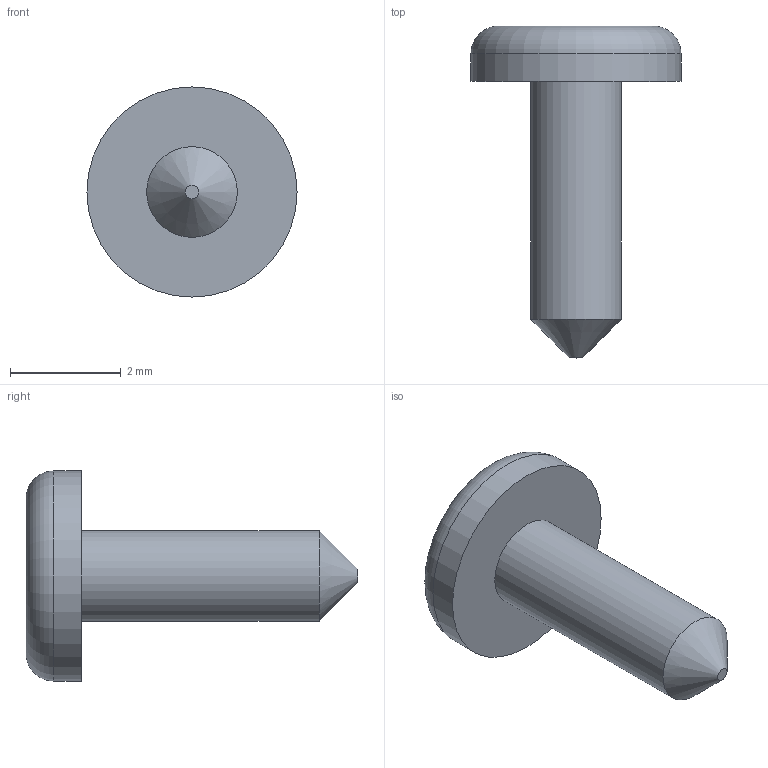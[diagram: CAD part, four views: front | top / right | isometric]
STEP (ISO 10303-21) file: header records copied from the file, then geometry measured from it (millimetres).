
FILE_DESCRIPTION(/* description */ (''),/* implementation_level */ '2;1');
FILE_NAME(/* name */ 'C:/Users/priba/Downloads/ScrewM1.7.step',/* time_stamp */ '2022-04-12T10:45:03+02:00',/* author */ (''),/* organization */ (''),/* preprocessor_version */ 'ST-DEVELOPER v18.1',/* originating_system */ 'Autodesk Translation Framework v10.13.0.1454',/* authorisation */ '');
FILE_SCHEMA (('AUTOMOTIVE_DESIGN { 1 0 10303 214 3 1 1 }','FEATURE_BASED_PROCESS_PLANNING'));
Length unit declared in the file: millimetre
Products named in the file (1): ScrewM1.7
Bounding box: 3.8 x 6 x 3.8 mm (x, y, z)
Volume: 19.4 mm3; surface area: 60.5 mm2
Topology: 1 solids, 1 shells, 20 faces, 47 edges, 31 vertices
Faces by surface type: plane 16, cylinder 2, cone 1, torus 1
Full cylindrical faces by diameter (mm): 1.639 x1, 3.8 x1
Entity records: 604 total; most frequent: CARTESIAN_POINT 99, DIRECTION 97, ORIENTED_EDGE 94, EDGE_CURVE 47, LINE 39, VECTOR 39, VERTEX_POINT 31, AXIS2_PLACEMENT_3D 29
